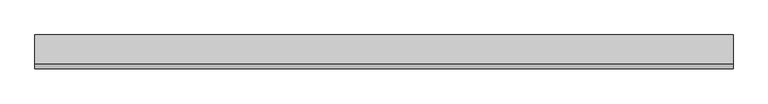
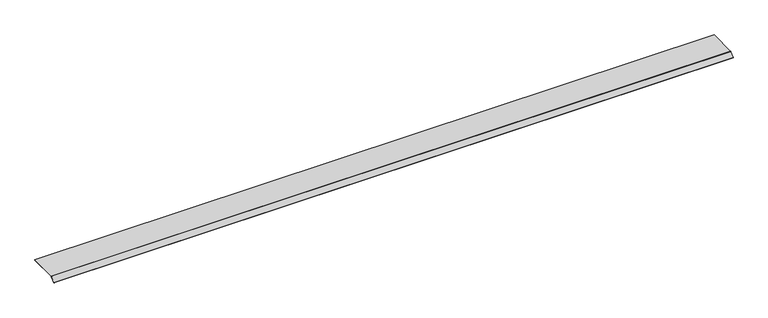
"""IFC4 building model written with IfcOpenShell, lengths in millimetres: proxy geometry, Electrical_Installation_Hager_Blank-Cover-800mm-Double-Sided-Extended-100-Height-40mm : Electrical_Installation_Hager_Blank-Cover-800mm-Double-Sided-Extended-100-Height-40mm."""

from ifc_helpers import new_model, si_unit, point, frame, frame_2d, origin, place, context, project, spatial, polyline, circle_curve, trimmed, segment, composite_curve, outline, extrude, source, transform, mapped, element, save


def electrical_fixtures_c9aeae01(model_context):
    return source(origin(), model_context, "Body", "SweptSolid", [
        extrude(outline(composite_curve([segment(polyline([(176.470165, 25.5), (176.470165, 22.5), (-74.8229541, 22.5)]), True, "CONTINUOUS"), segment(trimmed(circle_curve(frame_2d((-74.8229541, 21.0725733)), 1.4274267), [point((-74.8229541, 22.5))], [point((-75.8322972, 22.0819164))], True, "CARTESIAN"), True, "CONTINUOUS"), segment(polyline([(-75.8322972, 22.0819164), (-112.91729, -15.0030764), (-115.0386103, -12.8817561), (-77.8206472, 24.336207)]), True, "CONTINUOUS"), segment(trimmed(circle_curve(frame_2d((-75.0110025, 21.5265623)), 3.9734377), [point((-77.8206472, 24.336207))], [point((-75.0110025, 25.5))], False, "CARTESIAN"), True, "CONTINUOUS"), segment(polyline([(-75.0110025, 25.5), (176.470165, 25.5)]), True, "CONTINUOUS")], self_intersect=False)), frame((0.0, 0.0, 0.0), z_axis=(1.0, 0.0, 0.0), x_axis=(0.0, 1.0, 0.0)), (0.0, 0.0, 1.0), 6011.6956759),
    ])


if __name__ == "__main__":
    model = new_model("IFC4")
    model_context = context("Model", 3, world=origin())
    ifc_project = project(units=[si_unit("LENGTHUNIT", "METRE", prefix="MILLI")], contexts=[model_context])
    site = spatial("IfcSite", under=ifc_project)
    building = spatial("IfcBuilding", under=site)
    placement = place(None, origin())
    electrical_fixtures_shape = electrical_fixtures_c9aeae01(model_context)
    element("IfcBuildingElementProxy", 1, Name="Electrical_Installation_Hager_Blank-Cover-800mm-Double-Sided-Extended-100-Height-40mm : Electrical_Installation_Hager_Blank-Cover-800mm-Double-Sided-Extended-100-Height-40mm", ObjectType="Electrical_Installation_Hager_Blank-Cover-800mm-Double-Sided-Extended-100-Height-40mm : Electrical_Installation_Hager_Blank-Cover-800mm-Double-Sided-Extended-100-Height-40mm", at=placement, inside=building, context=model_context, shape_type="MappedRepresentation", body=[
        mapped(electrical_fixtures_shape, transform((0.0, 0.0, 0.0), x_axis=(1.0, 0.0, 0.0), y_axis=(0.0, 1.0, 0.0), z_axis=(0.0, 0.0, 1.0))),
    ])
    save(model, "model.ifc")
